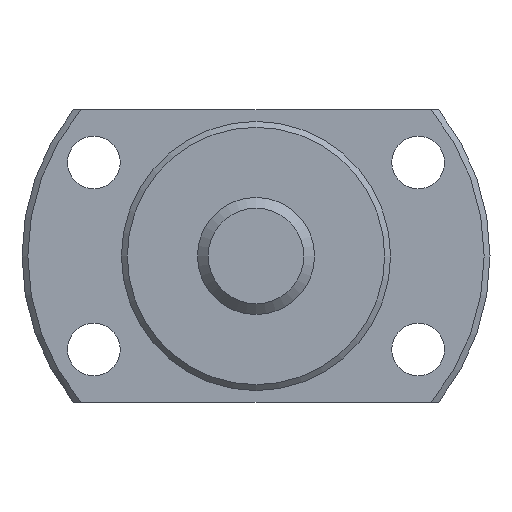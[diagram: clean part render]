
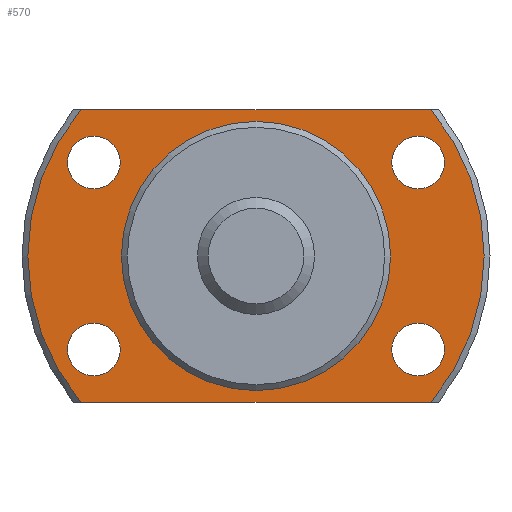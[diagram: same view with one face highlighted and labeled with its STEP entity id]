
A CAD part, left-side view. The second image highlights one B-rep face of the part: STEP entity #570.
In plain terms, the highlighted planar face has unit normal (-1, 0, 0).
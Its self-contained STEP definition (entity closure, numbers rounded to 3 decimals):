
#73=LINE('',#1002,#91);
#74=LINE('',#1006,#92);
#91=VECTOR('',#825,1000.);
#92=VECTOR('',#828,1000.);
#173=ORIENTED_EDGE('',*,*,#273,.T.);
#174=ORIENTED_EDGE('',*,*,#274,.T.);
#175=ORIENTED_EDGE('',*,*,#275,.T.);
#176=ORIENTED_EDGE('',*,*,#276,.T.);
#177=ORIENTED_EDGE('',*,*,#258,.F.);
#178=ORIENTED_EDGE('',*,*,#277,.F.);
#179=ORIENTED_EDGE('',*,*,#278,.F.);
#180=ORIENTED_EDGE('',*,*,#279,.F.);
#181=ORIENTED_EDGE('',*,*,#272,.T.);
#258=EDGE_CURVE('',#318,#319,#365,.T.);
#272=EDGE_CURVE('',#331,#331,#374,.T.);
#273=EDGE_CURVE('',#332,#332,#375,.T.);
#274=EDGE_CURVE('',#333,#333,#376,.T.);
#275=EDGE_CURVE('',#334,#334,#377,.T.);
#276=EDGE_CURVE('',#335,#335,#378,.T.);
#277=EDGE_CURVE('',#336,#318,#73,.T.);
#278=EDGE_CURVE('',#337,#336,#379,.T.);
#279=EDGE_CURVE('',#319,#337,#74,.T.);
#318=VERTEX_POINT('',#948);
#319=VERTEX_POINT('',#950);
#331=VERTEX_POINT('',#992);
#332=VERTEX_POINT('',#995);
#333=VERTEX_POINT('',#997);
#334=VERTEX_POINT('',#999);
#335=VERTEX_POINT('',#1001);
#336=VERTEX_POINT('',#1003);
#337=VERTEX_POINT('',#1005);
#365=CIRCLE('',#647,19.5);
#374=CIRCLE('',#663,11.35);
#375=CIRCLE('',#665,2.25);
#376=CIRCLE('',#666,2.25);
#377=CIRCLE('',#667,2.25);
#378=CIRCLE('',#668,2.25);
#379=CIRCLE('',#669,19.5);
#430=EDGE_LOOP('',(#173));
#431=EDGE_LOOP('',(#174));
#432=EDGE_LOOP('',(#175));
#433=EDGE_LOOP('',(#176));
#434=EDGE_LOOP('',(#177,#178,#179,#180));
#435=EDGE_LOOP('',(#181));
#500=FACE_BOUND('',#430,.T.);
#501=FACE_BOUND('',#431,.T.);
#502=FACE_BOUND('',#432,.T.);
#503=FACE_BOUND('',#433,.T.);
#504=FACE_BOUND('',#434,.T.);
#505=FACE_BOUND('',#435,.T.);
#539=PLANE('',#664);
#570=ADVANCED_FACE('',(#500,#501,#502,#503,#504,#505),#539,.F.);
#647=AXIS2_PLACEMENT_3D('',#949,#779,#780);
#663=AXIS2_PLACEMENT_3D('',#991,#813,#814);
#664=AXIS2_PLACEMENT_3D('',#993,#815,#816);
#665=AXIS2_PLACEMENT_3D('',#994,#817,#818);
#666=AXIS2_PLACEMENT_3D('',#996,#819,#820);
#667=AXIS2_PLACEMENT_3D('',#998,#821,#822);
#668=AXIS2_PLACEMENT_3D('',#1000,#823,#824);
#669=AXIS2_PLACEMENT_3D('',#1004,#826,#827);
#779=DIRECTION('',(1.,0.,0.));
#780=DIRECTION('',(0.,0.,-1.));
#813=DIRECTION('',(1.,0.,0.));
#814=DIRECTION('',(0.,0.,-1.));
#815=DIRECTION('',(1.,0.,0.));
#816=DIRECTION('',(0.,0.,-1.));
#817=DIRECTION('',(1.,0.,0.));
#818=DIRECTION('',(0.,0.,-1.));
#819=DIRECTION('',(1.,0.,0.));
#820=DIRECTION('',(0.,0.,-1.));
#821=DIRECTION('',(1.,0.,0.));
#822=DIRECTION('',(0.,0.,-1.));
#823=DIRECTION('',(1.,0.,0.));
#824=DIRECTION('',(0.,0.,-1.));
#825=DIRECTION('',(0.,1.,0.));
#826=DIRECTION('',(1.,0.,0.));
#827=DIRECTION('',(0.,0.,-1.));
#828=DIRECTION('',(0.,-1.,0.));
#948=CARTESIAN_POINT('',(21.,14.967,-12.5));
#949=CARTESIAN_POINT('',(21.,0.,0.));
#950=CARTESIAN_POINT('',(21.,14.967,12.5));
#991=CARTESIAN_POINT('',(21.,0.,0.));
#992=CARTESIAN_POINT('',(21.,0.,-11.35));
#993=CARTESIAN_POINT('',(21.,11.35,0.));
#994=CARTESIAN_POINT('',(21.,-13.856,-8.));
#995=CARTESIAN_POINT('',(21.,-13.856,-10.25));
#996=CARTESIAN_POINT('',(21.,-13.856,8.));
#997=CARTESIAN_POINT('',(21.,-13.856,5.75));
#998=CARTESIAN_POINT('',(21.,13.856,-8.));
#999=CARTESIAN_POINT('',(21.,13.856,-10.25));
#1000=CARTESIAN_POINT('',(21.,13.856,8.));
#1001=CARTESIAN_POINT('',(21.,13.856,5.75));
#1002=CARTESIAN_POINT('',(21.,-25.,-12.5));
#1003=CARTESIAN_POINT('',(21.,-14.967,-12.5));
#1004=CARTESIAN_POINT('',(21.,0.,0.));
#1005=CARTESIAN_POINT('',(21.,-14.967,12.5));
#1006=CARTESIAN_POINT('',(21.,25.,12.5));
